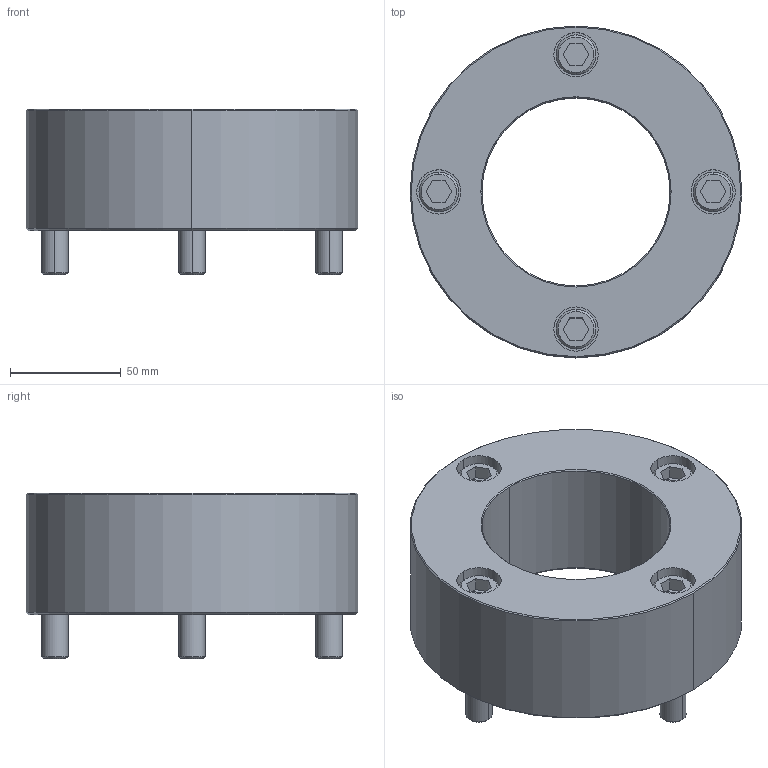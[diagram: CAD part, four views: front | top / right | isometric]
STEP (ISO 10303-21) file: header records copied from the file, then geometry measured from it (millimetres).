
FILE_DESCRIPTION((''),'2;1');
FILE_NAME('','2010-08-30T17:31:07+09:00',('misumi'),(''),'M/STEP i/f 1R2-14','CADmeister v5.1','');
FILE_SCHEMA(('AUTOMOTIVE_DESIGN'));
Length unit declared in the file: millimetre
Products named in the file (1): KEB80-55-Y
Bounding box: 150 x 150 x 75 mm (x, y, z)
Volume: 652990.9 mm3; surface area: 87923.9 mm2
Topology: 5 solids, 5 shells, 106 faces, 228 edges, 144 vertices
Faces by surface type: plane 46, cylinder 36, cone 24
Entity records: 3030 total; most frequent: DIRECTION 538, CARTESIAN_POINT 479, ORIENTED_EDGE 456, EDGE_CURVE 228, AXIS2_PLACEMENT_3D 203, VERTEX_POINT 144, LINE 132, VECTOR 132
